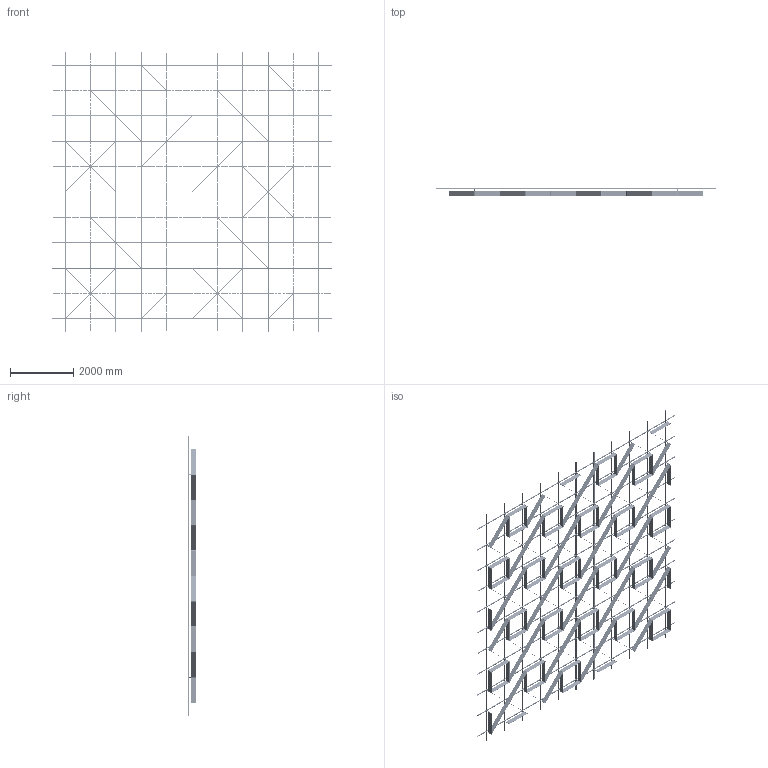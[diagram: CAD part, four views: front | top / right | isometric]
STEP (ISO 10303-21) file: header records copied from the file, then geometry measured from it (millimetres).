
FILE_DESCRIPTION (( 'STEP AP214' ), '1' );
FILE_NAME ('OPT_Var16.STEP', '2024-04-26T06:58:44', ( '' ), ( '' ), 'SwSTEP 2.0', 'SolidWorks 2020', '' );
FILE_SCHEMA (( 'AUTOMOTIVE_DESIGN' ));
Length unit declared in the file: millimetre
Products named in the file (5): SS.SEMA.2400 - Ñèìà-ïðîôèëü — îáðåçàí 1600; Varp16; OPT_Var16; SS.SEMA.2400 - Ñèìà-ïðîôèëü; Ñèñòåìà â çîíå 8000õ8000
Assembly tree (90 placements, depth 3):
  OPT_Var16
    Ñèñòåìà â çîíå 8000õ8000
      SS.SEMA.2400 - Ñèìà-ïðîôèëü  x66
      SS.SEMA.2400 - Ñèìà-ïðîôèëü — îáðåçàí 1600  x22
    Varp16
Bounding box: 8800 x 253 x 8800 mm (x, y, z)
Volume: 200811002.1 mm3; surface area: 81888354.6 mm2
Topology: 736 solids, 736 shells, 20100 faces, 54476 edges, 35848 vertices
Faces by surface type: cylinder 12818, plane 7282
Entity records: 107089 total; most frequent: CARTESIAN_POINT 32554, ORIENTED_EDGE 15800, DIRECTION 9554, EDGE_CURVE 7900, VERTEX_POINT 5256, B_SPLINE_CURVE_WITH_KNOTS 4992, AXIS2_PLACEMENT_3D 4528, EDGE_LOOP 4106
